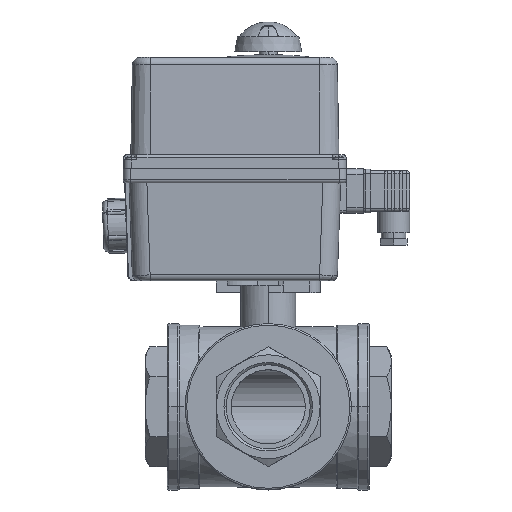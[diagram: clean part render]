
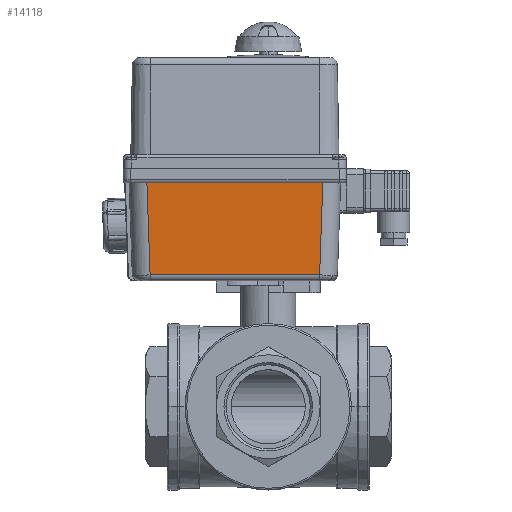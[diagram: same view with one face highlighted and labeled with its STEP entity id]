
A CAD part, top view. The second image highlights one B-rep face of the part: STEP entity #14118.
In plain terms, the highlighted planar face has unit normal (0, -0.035, 0.999).
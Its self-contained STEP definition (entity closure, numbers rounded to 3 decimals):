
#287 = CARTESIAN_POINT ( 'NONE',  ( 59.312, -9.5, 59.305 ) ) ;
#1449 = AXIS2_PLACEMENT_3D ( 'NONE', #1918, #1924, #1925 ) ;
#1916 = PLANE ( 'NONE',  #1449 ) ;
#1918 = CARTESIAN_POINT ( 'NONE',  ( 69., -75.5, 57. ) ) ;
#1922 = FACE_OUTER_BOUND ( 'NONE', #9295, .T. ) ;
#1924 = DIRECTION ( 'NONE',  ( 0., -0.035, 0.999 ) ) ;
#1925 = DIRECTION ( 'NONE',  ( 0., -0.999, -0.035 ) ) ;
#6498 = LINE ( 'NONE', #6499, #6817 ) ;
#6499 = CARTESIAN_POINT ( 'NONE',  ( 69., -9.5, 59.305 ) ) ;
#6500 = DIRECTION ( 'NONE',  ( -1., 0., 0. ) ) ;
#6605 = LINE ( 'NONE', #6606, #6857 ) ;
#6606 = CARTESIAN_POINT ( 'NONE',  ( -56.854, -79.89, 56.847 ) ) ;
#6607 = DIRECTION ( 'NONE',  ( 0.035, -0.999, -0.035 ) ) ;
#6608 = LINE ( 'NONE', #6609, #6858 ) ;
#6609 = CARTESIAN_POINT ( 'NONE',  ( 69., -71.64, 57.135 ) ) ;
#6610 = DIRECTION ( 'NONE',  ( 1., 0., 0. ) ) ;
#6611 = LINE ( 'NONE', #6612, #6859 ) ;
#6612 = CARTESIAN_POINT ( 'NONE',  ( 57.022, -75.082, 57.015 ) ) ;
#6613 = DIRECTION ( 'NONE',  ( 0.035, 0.999, 0.035 ) ) ;
#6817 = VECTOR ( 'NONE', #6500, 1000. ) ;
#6857 = VECTOR ( 'NONE', #6607, 1000. ) ;
#6858 = VECTOR ( 'NONE', #6610, 1000. ) ;
#6859 = VECTOR ( 'NONE', #6613, 1000. ) ;
#9295 = EDGE_LOOP ( 'NONE', ( #15222, #15272, #15253, #15258 ) ) ;
#12572 = VERTEX_POINT ( 'NONE', #27432 ) ;
#12577 = VERTEX_POINT ( 'NONE', #27437 ) ;
#12603 = VERTEX_POINT ( 'NONE', #27463 ) ;
#12624 = VERTEX_POINT ( 'NONE', #287 ) ;
#14118 = ADVANCED_FACE ( 'NONE', ( #1922 ), #1916, .T. ) ;
#15222 = ORIENTED_EDGE ( 'NONE', *, *, #17520, .T. ) ;
#15253 = ORIENTED_EDGE ( 'NONE', *, *, #17522, .T. ) ;
#15258 = ORIENTED_EDGE ( 'NONE', *, *, #17485, .T. ) ;
#15272 = ORIENTED_EDGE ( 'NONE', *, *, #17521, .T. ) ;
#17485 = EDGE_CURVE ( 'NONE', #12624, #12572, #6498, .T. ) ;
#17520 = EDGE_CURVE ( 'NONE', #12572, #12577, #6605, .T. ) ;
#17521 = EDGE_CURVE ( 'NONE', #12577, #12603, #6608, .T. ) ;
#17522 = EDGE_CURVE ( 'NONE', #12603, #12624, #6611, .T. ) ;
#27432 = CARTESIAN_POINT ( 'NONE',  ( -59.312, -9.5, 59.305 ) ) ;
#27437 = CARTESIAN_POINT ( 'NONE',  ( -57.142, -71.64, 57.135 ) ) ;
#27463 = CARTESIAN_POINT ( 'NONE',  ( 57.142, -71.64, 57.135 ) ) ;
